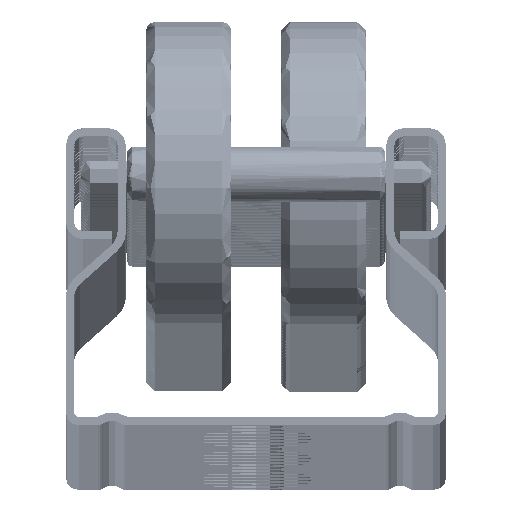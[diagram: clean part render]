
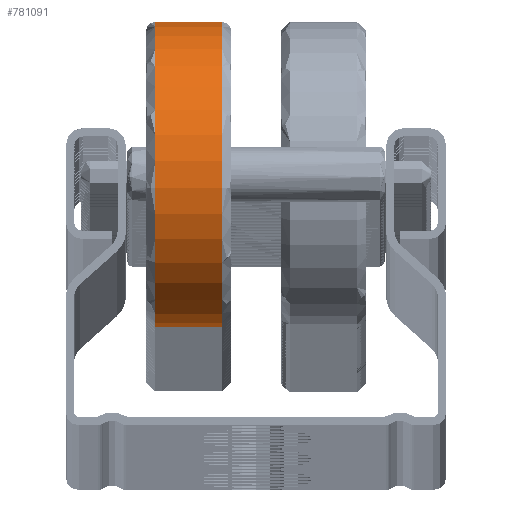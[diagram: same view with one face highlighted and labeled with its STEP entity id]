
A CAD part, top view. The second image highlights one B-rep face of the part: STEP entity #781091.
In plain terms, the highlighted cylindrical face has radius 16.5 mm (diameter 33 mm), a full revolution.
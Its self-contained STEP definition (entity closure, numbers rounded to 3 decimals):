
#46025 = ORIENTED_EDGE ( 'NONE', *, *, #262336, .T. ) ;
#95915 = AXIS2_PLACEMENT_3D ( 'NONE', #461916, #642628, #515328 ) ;
#135383 = VERTEX_POINT ( 'NONE', #192713 ) ;
#140910 = CARTESIAN_POINT ( 'NONE',  ( -13.271, 14.078, 4068.5 ) ) ;
#192713 = CARTESIAN_POINT ( 'NONE',  ( -5.071, -2.356, 4067.029 ) ) ;
#241829 = EDGE_LOOP ( 'NONE', ( #46025 ) ) ;
#242747 = DIRECTION ( 'NONE',  ( 1., 0., 0. ) ) ;
#252532 = CIRCLE ( 'NONE', #95915, 16.5 ) ;
#257122 = AXIS2_PLACEMENT_3D ( 'NONE', #140910, #263831, #329287 ) ;
#262336 = EDGE_CURVE ( 'NONE', #445432, #445432, #735926, .T. ) ;
#263831 = DIRECTION ( 'NONE',  ( 1., 0., 0. ) ) ;
#264991 = CARTESIAN_POINT ( 'NONE',  ( -12.271, -2.356, 4067.029 ) ) ;
#267590 = EDGE_LOOP ( 'NONE', ( #339654 ) ) ;
#329287 = DIRECTION ( 'NONE',  ( 0., -0.996, -0.089 ) ) ;
#339654 = ORIENTED_EDGE ( 'NONE', *, *, #655372, .T. ) ;
#382379 = AXIS2_PLACEMENT_3D ( 'NONE', #804877, #242747, #492753 ) ;
#398921 = FACE_OUTER_BOUND ( 'NONE', #241829, .T. ) ;
#445432 = VERTEX_POINT ( 'NONE', #264991 ) ;
#461916 = CARTESIAN_POINT ( 'NONE',  ( -5.071, 14.078, 4068.5 ) ) ;
#492753 = DIRECTION ( 'NONE',  ( 0., -0.996, -0.089 ) ) ;
#515328 = DIRECTION ( 'NONE',  ( 0., -0.996, -0.089 ) ) ;
#583448 = FACE_OUTER_BOUND ( 'NONE', #267590, .T. ) ;
#633053 = CYLINDRICAL_SURFACE ( 'NONE', #257122, 16.5 ) ;
#642628 = DIRECTION ( 'NONE',  ( -1., 0., 0. ) ) ;
#655372 = EDGE_CURVE ( 'NONE', #135383, #135383, #252532, .T. ) ;
#735926 = CIRCLE ( 'NONE', #382379, 16.5 ) ;
#781091 = ADVANCED_FACE ( 'NONE', ( #583448, #398921 ), #633053, .T. ) ;
#804877 = CARTESIAN_POINT ( 'NONE',  ( -12.271, 14.078, 4068.5 ) ) ;
